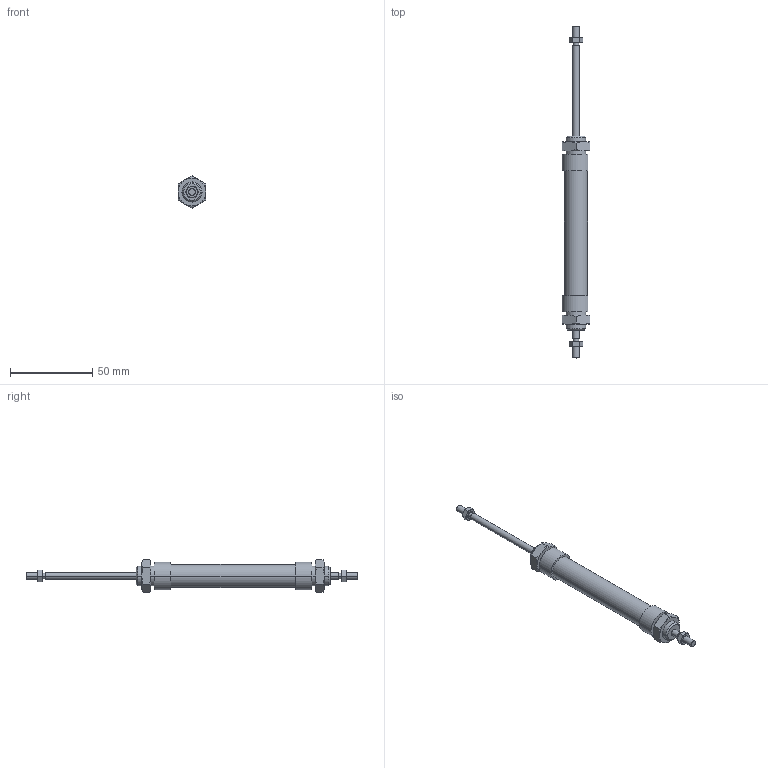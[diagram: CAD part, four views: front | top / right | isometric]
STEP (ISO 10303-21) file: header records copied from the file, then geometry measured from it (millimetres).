
FILE_DESCRIPTION((''),'2;1');
FILE_NAME('I:\DOC-EDP\Lib-3d\1200\CILINDRI\1262\1262_10_0050.stp','2003-04-02T18:56:59',('maffial1'),(''),'Autodesk Inventor (R) 6.0','Autodesk Inventor (R) 6.0','');
FILE_SCHEMA(('AUTOMOTIVE_DESIGN { 1 0 10303 214 1 1 1 1 }'));
Length unit declared in the file: millimetre
Products named in the file (5): 1262_10_0050; S1262_10_50; C1262_10_50; 1200_10_05; 1200_10_06
Assembly tree (6 placements, depth 2):
  1262_10_0050
    S1262_10_50
    C1262_10_50
    1200_10_05  x2
    1200_10_06  x2
Bounding box: 17 x 202 x 19.63 mm (x, y, z)
Volume: 21344 mm3; surface area: 11797.5 mm2
Topology: 6 solids, 6 shells, 170 faces, 356 edges, 208 vertices
Faces by surface type: cone 72, plane 46, bspline 30, cylinder 22
Entity records: 3247 total; most frequent: CARTESIAN_POINT 893, DIRECTION 490, ORIENTED_EDGE 456, EDGE_CURVE 228, AXIS2_PLACEMENT_3D 209, VERTEX_POINT 136, EDGE_LOOP 126, FACE_OUTER_BOUND 110
